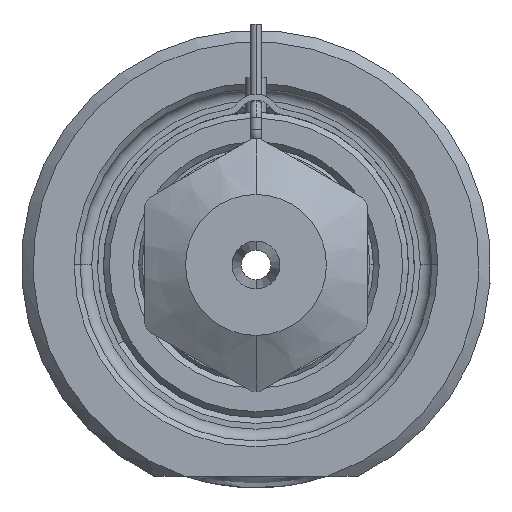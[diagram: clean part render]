
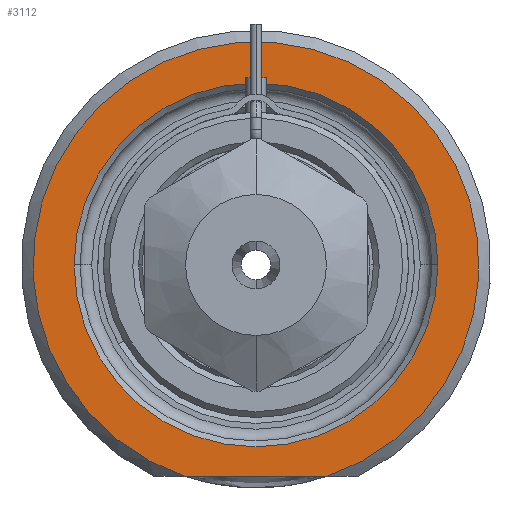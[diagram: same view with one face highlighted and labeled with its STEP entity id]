
A CAD part, front view. The second image highlights one B-rep face of the part: STEP entity #3112.
In plain terms, the highlighted planar face has unit normal (0, -1, 0).
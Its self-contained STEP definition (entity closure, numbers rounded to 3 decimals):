
#1=DIRECTION('',(1.,0.,0.));
#2=VECTOR('',#1,12.166);
#3=CARTESIAN_POINT('',(-6.083,0.,-18.));
#4=LINE('',#3,#2);
#5=CARTESIAN_POINT('',(0.,0.,0.));
#6=DIRECTION('',(0.,1.,0.));
#7=DIRECTION('',(-1.,0.,0.));
#8=AXIS2_PLACEMENT_3D('',#5,#6,#7);
#10=CARTESIAN_POINT('',(0.,0.,0.));
#11=DIRECTION('',(0.,1.,0.));
#12=DIRECTION('',(1.,0.,0.));
#13=AXIS2_PLACEMENT_3D('',#10,#11,#12);
#264=CARTESIAN_POINT('',(0.,0.,0.));
#265=DIRECTION('',(0.,-1.,0.));
#266=DIRECTION('',(0.32,0.,-0.947));
#267=AXIS2_PLACEMENT_3D('',#264,#265,#266);
#2615=CARTESIAN_POINT('',(-15.5,0.,0.));
#2616=CARTESIAN_POINT('',(15.5,0.,0.));
#2617=VERTEX_POINT('',#2615);
#2618=VERTEX_POINT('',#2616);
#2673=CARTESIAN_POINT('',(-6.083,0.,-18.));
#2674=CARTESIAN_POINT('',(6.083,0.,-18.));
#2675=VERTEX_POINT('',#2673);
#2676=VERTEX_POINT('',#2674);
#3095=CARTESIAN_POINT('',(0.,0.,0.));
#3096=DIRECTION('',(0.,-1.,0.));
#3097=DIRECTION('',(1.,0.,0.));
#3098=AXIS2_PLACEMENT_3D('',#3095,#3096,#3097);
#3099=PLANE('',#3098);
#3101=ORIENTED_EDGE('',*,*,#3100,.F.);
#3103=ORIENTED_EDGE('',*,*,#3102,.F.);
#3104=EDGE_LOOP('',(#3101,#3103));
#3105=FACE_OUTER_BOUND('',#3104,.F.);
#3107=ORIENTED_EDGE('',*,*,#3106,.F.);
#3109=ORIENTED_EDGE('',*,*,#3108,.F.);
#3110=EDGE_LOOP('',(#3107,#3109));
#3111=FACE_BOUND('',#3110,.F.);
#3112=ADVANCED_FACE('',(#3105,#3111),#3099,.T.);
#9=CIRCLE('',#8,15.5);
#14=CIRCLE('',#13,15.5);
#268=CIRCLE('',#267,19.);
#3100=EDGE_CURVE('',#2675,#2676,#4,.T.);
#3102=EDGE_CURVE('',#2676,#2675,#268,.T.);
#3106=EDGE_CURVE('',#2617,#2618,#9,.T.);
#3108=EDGE_CURVE('',#2618,#2617,#14,.T.);
